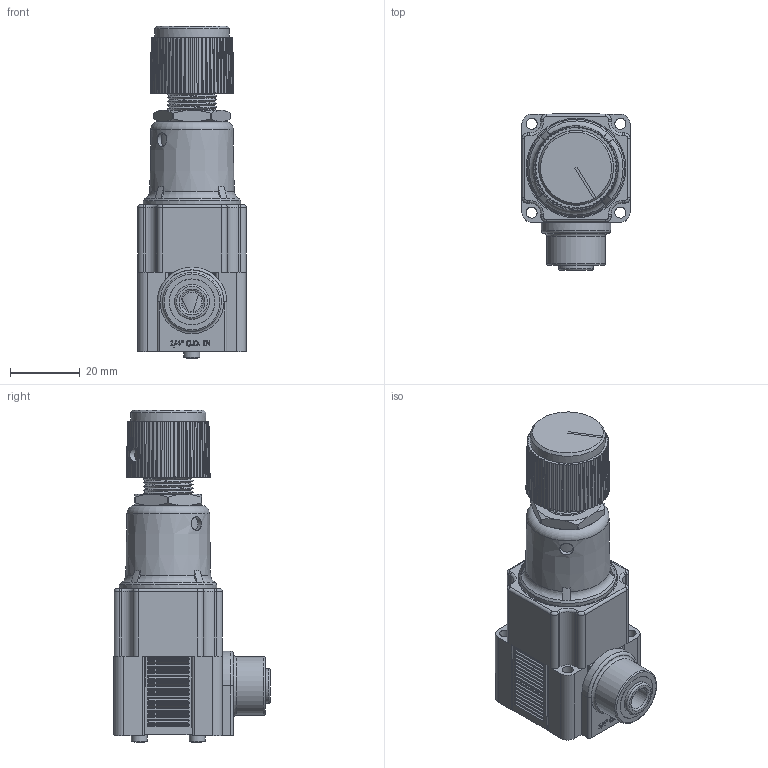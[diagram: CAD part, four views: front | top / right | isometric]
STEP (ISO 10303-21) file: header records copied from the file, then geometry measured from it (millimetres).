
FILE_DESCRIPTION(/* description */ (''),/* implementation_level */ '2;1');
FILE_NAME(/* name */ 'K:\Normteile INVENTOR\Air-Logic\Regulators\R6000\R 6___ 5 Push-In Fitting for 1''4 O.D. Tube In.igs.ipt.stp',/* time_stamp */ '2020-05-27T10:57:14+02:00',/* author */ ('Paul'),/* organization */ (''),/* preprocessor_version */ 'ST-DEVELOPER v18',/* originating_system */ 'Autodesk Inventor 2020',/* authorisation */ '');
FILE_SCHEMA (('AUTOMOTIVE_DESIGN { 1 0 10303 214 3 1 1 }'));
Length unit declared in the file: inch
Products named in the file (1): R 6___ 5 Push-In Fitting for 1'4 O.D. Tube In.igs
Bounding box: 31.19 x 44.8 x 95.02 mm (x, y, z)
Volume: 59089.2 mm3; surface area: 19028.4 mm2
Topology: 1 solids, 1 shells, 1067 faces, 2759 edges, 1783 vertices
Faces by surface type: plane 550, cylinder 352, cone 83, bspline 46, torus 36
Full cylindrical faces by diameter (mm): 1.194 x1, 2.032 x1, 3.124 x2, 3.175 x8, 3.988 x1, 4.064 x1, 4.521 x2, 5.639 x1, 6.35 x1, 8.382 x2, 9.169 x1, 9.398 x1, 9.906 x1, 12.903 x1, 13.132 x1, 13.144 x1, 16.764 x1, 19.406 x1, 21.476 x1, 27.94 x1, 28.575 x1
Entity records: 39042 total; most frequent: CARTESIAN_POINT 11360, DIRECTION 5709, ORIENTED_EDGE 5518, EDGE_CURVE 2759, AXIS2_PLACEMENT_3D 2161, VERTEX_POINT 1783, LINE 1387, VECTOR 1387
